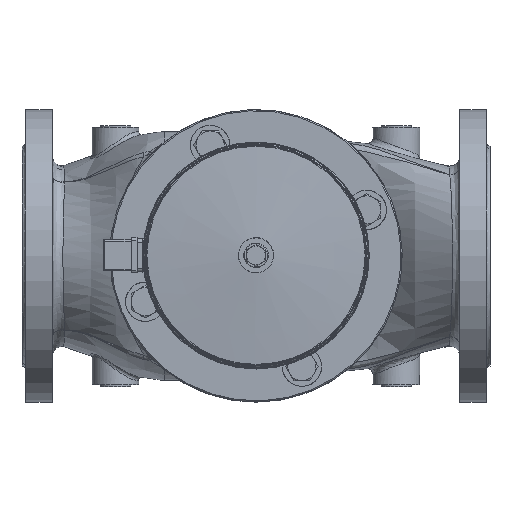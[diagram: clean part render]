
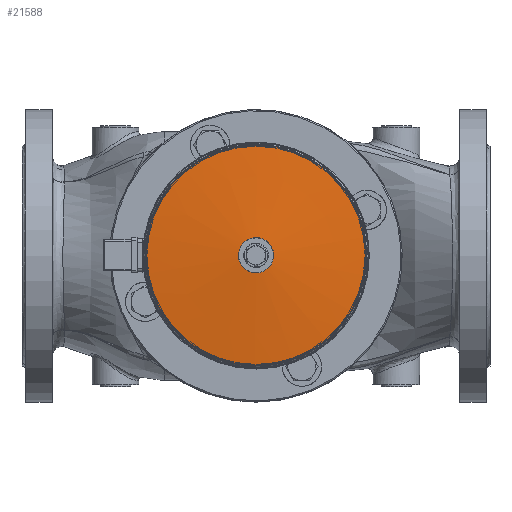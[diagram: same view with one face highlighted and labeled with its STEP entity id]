
A CAD part, top view. The second image highlights one B-rep face of the part: STEP entity #21588.
In plain terms, the highlighted conical face has half-angle 84.937 degrees and reference radius 55.344 mm.
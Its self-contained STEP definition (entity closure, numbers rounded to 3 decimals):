
#21557=CARTESIAN_POINT('',(-9.794,-11.477,415.997));
#21558=VERTEX_POINT('',#21557);
#21559=CARTESIAN_POINT('',(0.,0.,415.997));
#21560=DIRECTION('',(0.,0.,1.0));
#21561=DIRECTION('',(0.649,0.761,0.));
#21562=AXIS2_PLACEMENT_3D('',#21559,#21560,#21561);
#21563=CIRCLE('',#21562,15.088);
#21564=EDGE_CURVE('',#21558,#21558,#21563,.T.);
#21569=CARTESIAN_POINT('',(0.,0.,412.431));
#21570=DIRECTION('',(0.,0.,-1.0));
#21571=DIRECTION('',(-0.649,-0.761,0.));
#21572=AXIS2_PLACEMENT_3D('',#21569,#21570,#21571);
#21573=CONICAL_SURFACE('',#21572,55.344,84.937);
#21574=CARTESIAN_POINT('',(-61.011,-71.495,409.007));
#21575=VERTEX_POINT('',#21574);
#21576=CARTESIAN_POINT('',(0.,0.,409.007));
#21577=DIRECTION('',(0.,0.,-1.));
#21578=DIRECTION('',(0.649,0.761,0.));
#21579=AXIS2_PLACEMENT_3D('',#21576,#21577,#21578);
#21580=CIRCLE('',#21579,93.988);
#21581=EDGE_CURVE('',#21575,#21575,#21580,.T.);
#21582=ORIENTED_EDGE('',*,*,#21581,.F.);
#21583=EDGE_LOOP('',(#21582));
#21584=FACE_OUTER_BOUND('',#21583,.T.);
#21585=ORIENTED_EDGE('',*,*,#21564,.F.);
#21586=EDGE_LOOP('',(#21585));
#21587=FACE_BOUND('',#21586,.T.);
#21588=ADVANCED_FACE('',(#21584,#21587),#21573,.T.);
